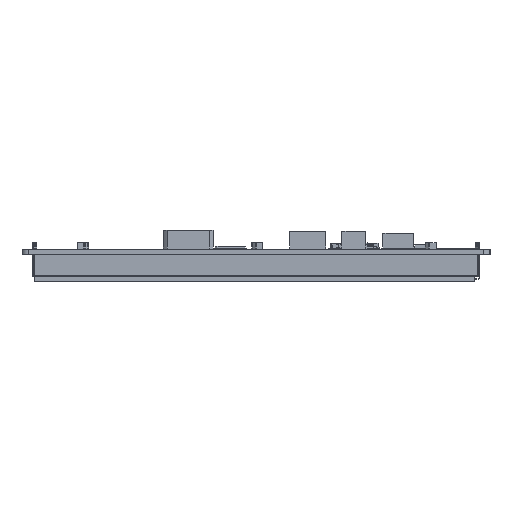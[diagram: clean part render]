
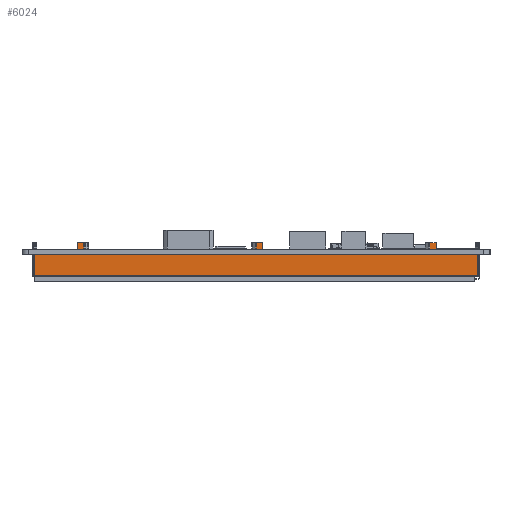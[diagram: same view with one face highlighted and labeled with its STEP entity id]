
A CAD part, left-side view. The second image highlights one B-rep face of the part: STEP entity #6024.
In plain terms, the highlighted planar face has unit normal (-1, 0, 0).
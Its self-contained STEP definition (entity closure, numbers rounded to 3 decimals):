
#6024=ADVANCED_FACE('',(#10376),#8043,.F.);
#8043=PLANE('',#53739);
#10376=FACE_OUTER_BOUND('',#12884,.T.);
#12884=EDGE_LOOP('',(#25578,#25579,#25580,#25581,#25582,#25583,#25584,#25585,
#25586,#25587,#25588,#25589,#25590,#25591,#25592,#25593,#25594,#25595,#25596,
#25597,#25598,#25599));
#25578=ORIENTED_EDGE('',*,*,#38000,.F.);
#25579=ORIENTED_EDGE('',*,*,#38001,.T.);
#25580=ORIENTED_EDGE('',*,*,#38002,.T.);
#25581=ORIENTED_EDGE('',*,*,#37997,.T.);
#25582=ORIENTED_EDGE('',*,*,#38003,.F.);
#25583=ORIENTED_EDGE('',*,*,#38004,.F.);
#25584=ORIENTED_EDGE('',*,*,#38005,.T.);
#25585=ORIENTED_EDGE('',*,*,#38006,.T.);
#25586=ORIENTED_EDGE('',*,*,#38007,.T.);
#25587=ORIENTED_EDGE('',*,*,#37993,.T.);
#25588=ORIENTED_EDGE('',*,*,#38008,.F.);
#25589=ORIENTED_EDGE('',*,*,#38009,.F.);
#25590=ORIENTED_EDGE('',*,*,#38010,.T.);
#25591=ORIENTED_EDGE('',*,*,#38011,.T.);
#25592=ORIENTED_EDGE('',*,*,#38012,.T.);
#25593=ORIENTED_EDGE('',*,*,#37989,.T.);
#25594=ORIENTED_EDGE('',*,*,#38013,.F.);
#25595=ORIENTED_EDGE('',*,*,#38014,.T.);
#25596=ORIENTED_EDGE('',*,*,#38015,.F.);
#25597=ORIENTED_EDGE('',*,*,#38016,.F.);
#25598=ORIENTED_EDGE('',*,*,#38017,.T.);
#25599=ORIENTED_EDGE('',*,*,#37987,.T.);
#31258=VERTEX_POINT('',#79700);
#31260=VERTEX_POINT('',#79704);
#31261=VERTEX_POINT('',#79708);
#31263=VERTEX_POINT('',#79711);
#31265=VERTEX_POINT('',#79717);
#31267=VERTEX_POINT('',#79720);
#31269=VERTEX_POINT('',#79726);
#31271=VERTEX_POINT('',#79729);
#31273=VERTEX_POINT('',#79735);
#31274=VERTEX_POINT('',#79737);
#31275=VERTEX_POINT('',#79740);
#31276=VERTEX_POINT('',#79742);
#31277=VERTEX_POINT('',#79744);
#31278=VERTEX_POINT('',#79746);
#31279=VERTEX_POINT('',#79749);
#31280=VERTEX_POINT('',#79751);
#31281=VERTEX_POINT('',#79753);
#31282=VERTEX_POINT('',#79755);
#31283=VERTEX_POINT('',#79758);
#31284=VERTEX_POINT('',#79760);
#31285=VERTEX_POINT('',#79762);
#31286=VERTEX_POINT('',#79764);
#37987=EDGE_CURVE('',#31258,#31260,#44156,.T.);
#37989=EDGE_CURVE('',#31263,#31261,#44158,.T.);
#37993=EDGE_CURVE('',#31267,#31265,#44162,.T.);
#37997=EDGE_CURVE('',#31271,#31269,#44166,.T.);
#38000=EDGE_CURVE('',#31273,#31260,#44169,.T.);
#38001=EDGE_CURVE('',#31273,#31274,#44170,.T.);
#38002=EDGE_CURVE('',#31274,#31271,#44171,.T.);
#38003=EDGE_CURVE('',#31275,#31269,#44172,.T.);
#38004=EDGE_CURVE('',#31276,#31275,#44173,.T.);
#38005=EDGE_CURVE('',#31276,#31277,#44174,.T.);
#38006=EDGE_CURVE('',#31277,#31278,#44175,.T.);
#38007=EDGE_CURVE('',#31278,#31267,#44176,.T.);
#38008=EDGE_CURVE('',#31279,#31265,#44177,.T.);
#38009=EDGE_CURVE('',#31280,#31279,#44178,.T.);
#38010=EDGE_CURVE('',#31280,#31281,#44179,.T.);
#38011=EDGE_CURVE('',#31281,#31282,#44180,.T.);
#38012=EDGE_CURVE('',#31282,#31263,#44181,.T.);
#38013=EDGE_CURVE('',#31283,#31261,#44182,.T.);
#38014=EDGE_CURVE('',#31283,#31284,#44183,.T.);
#38015=EDGE_CURVE('',#31285,#31284,#44184,.T.);
#38016=EDGE_CURVE('',#31286,#31285,#44185,.T.);
#38017=EDGE_CURVE('',#31286,#31258,#44186,.T.);
#44156=LINE('',#79705,#50177);
#44158=LINE('',#79710,#50179);
#44162=LINE('',#79719,#50183);
#44166=LINE('',#79728,#50187);
#44169=LINE('',#79734,#50190);
#44170=LINE('',#79736,#50191);
#44171=LINE('',#79738,#50192);
#44172=LINE('',#79739,#50193);
#44173=LINE('',#79741,#50194);
#44174=LINE('',#79743,#50195);
#44175=LINE('',#79745,#50196);
#44176=LINE('',#79747,#50197);
#44177=LINE('',#79748,#50198);
#44178=LINE('',#79750,#50199);
#44179=LINE('',#79752,#50200);
#44180=LINE('',#79754,#50201);
#44181=LINE('',#79756,#50202);
#44182=LINE('',#79757,#50203);
#44183=LINE('',#79759,#50204);
#44184=LINE('',#79761,#50205);
#44185=LINE('',#79763,#50206);
#44186=LINE('',#79765,#50207);
#50177=VECTOR('',#65326,1.);
#50179=VECTOR('',#65330,1.);
#50183=VECTOR('',#65336,1.);
#50187=VECTOR('',#65342,1.);
#50190=VECTOR('',#65347,1.);
#50191=VECTOR('',#65348,1.);
#50192=VECTOR('',#65349,1.);
#50193=VECTOR('',#65350,1.);
#50194=VECTOR('',#65351,1.);
#50195=VECTOR('',#65352,1.);
#50196=VECTOR('',#65353,1.);
#50197=VECTOR('',#65354,1.);
#50198=VECTOR('',#65355,1.);
#50199=VECTOR('',#65356,1.);
#50200=VECTOR('',#65357,1.);
#50201=VECTOR('',#65358,1.);
#50202=VECTOR('',#65359,1.);
#50203=VECTOR('',#65360,1.);
#50204=VECTOR('',#65361,1.);
#50205=VECTOR('',#65362,1.);
#50206=VECTOR('',#65363,1.);
#50207=VECTOR('',#65364,1.);
#53739=AXIS2_PLACEMENT_3D('',#79766,#65365,#65366);
#65326=DIRECTION('',(0.,1.,0.));
#65330=DIRECTION('',(0.,1.,0.));
#65336=DIRECTION('',(0.,1.,0.));
#65342=DIRECTION('',(0.,1.,0.));
#65347=DIRECTION('',(0.,0.,1.));
#65348=DIRECTION('',(0.,-1.,0.));
#65349=DIRECTION('',(0.,0.,1.));
#65350=DIRECTION('',(0.,0.,-1.));
#65351=DIRECTION('',(0.,-1.,0.));
#65352=DIRECTION('',(0.,0.,-1.));
#65353=DIRECTION('',(0.,-1.,0.));
#65354=DIRECTION('',(0.,0.,-1.));
#65355=DIRECTION('',(0.,0.,-1.));
#65356=DIRECTION('',(0.,-1.,0.));
#65357=DIRECTION('',(0.,0.,-1.));
#65358=DIRECTION('',(0.,-1.,0.));
#65359=DIRECTION('',(0.,0.,-1.));
#65360=DIRECTION('',(0.,0.,-1.));
#65361=DIRECTION('',(0.,-1.,0.));
#65362=DIRECTION('',(0.,0.,-1.));
#65363=DIRECTION('',(0.,-1.,0.));
#65364=DIRECTION('',(0.,0.,-1.));
#65365=DIRECTION('',(1.,0.,0.));
#65366=DIRECTION('',(0.,-1.,0.));
#79700=CARTESIAN_POINT('',(-84.85,60.795,-1.6));
#79704=CARTESIAN_POINT('',(-84.85,74.48,-1.6));
#79705=CARTESIAN_POINT('',(-84.85,-66.52,-1.6));
#79708=CARTESIAN_POINT('',(-84.85,58.795,-1.6));
#79710=CARTESIAN_POINT('',(-84.85,-66.52,-1.6));
#79711=CARTESIAN_POINT('',(-84.85,3.795,-1.6));
#79717=CARTESIAN_POINT('',(-84.85,1.795,-1.6));
#79719=CARTESIAN_POINT('',(-84.85,-66.52,-1.6));
#79720=CARTESIAN_POINT('',(-84.85,-51.325,-1.6));
#79726=CARTESIAN_POINT('',(-84.85,-53.325,-1.6));
#79728=CARTESIAN_POINT('',(-84.85,-66.52,-1.6));
#79729=CARTESIAN_POINT('',(-84.85,-66.52,-1.6));
#79734=CARTESIAN_POINT('',(-84.85,74.48,-8.8));
#79735=CARTESIAN_POINT('',(-84.85,74.48,-8.4));
#79736=CARTESIAN_POINT('',(-84.85,-66.52,-8.4));
#79737=CARTESIAN_POINT('',(-84.85,-66.52,-8.4));
#79738=CARTESIAN_POINT('',(-84.85,-66.52,-8.8));
#79739=CARTESIAN_POINT('',(-84.85,-53.325,2.));
#79740=CARTESIAN_POINT('',(-84.85,-53.325,2.));
#79741=CARTESIAN_POINT('',(-84.85,-51.243,2.));
#79742=CARTESIAN_POINT('',(-84.85,-51.243,2.));
#79743=CARTESIAN_POINT('',(-84.85,-51.243,2.));
#79744=CARTESIAN_POINT('',(-84.85,-51.243,0.));
#79745=CARTESIAN_POINT('',(-84.85,-51.243,0.));
#79746=CARTESIAN_POINT('',(-84.85,-51.325,0.));
#79747=CARTESIAN_POINT('',(-84.85,-51.325,0.));
#79748=CARTESIAN_POINT('',(-84.85,1.795,2.));
#79749=CARTESIAN_POINT('',(-84.85,1.795,2.));
#79750=CARTESIAN_POINT('',(-84.85,3.877,2.));
#79751=CARTESIAN_POINT('',(-84.85,3.877,2.));
#79752=CARTESIAN_POINT('',(-84.85,3.877,2.));
#79753=CARTESIAN_POINT('',(-84.85,3.877,0.));
#79754=CARTESIAN_POINT('',(-84.85,3.877,0.));
#79755=CARTESIAN_POINT('',(-84.85,3.795,0.));
#79756=CARTESIAN_POINT('',(-84.85,3.795,0.));
#79757=CARTESIAN_POINT('',(-84.85,58.795,0.));
#79758=CARTESIAN_POINT('',(-84.85,58.795,0.));
#79759=CARTESIAN_POINT('',(-84.85,60.795,0.));
#79760=CARTESIAN_POINT('',(-84.85,58.713,0.));
#79761=CARTESIAN_POINT('',(-84.85,58.713,2.));
#79762=CARTESIAN_POINT('',(-84.85,58.713,2.));
#79763=CARTESIAN_POINT('',(-84.85,60.795,2.));
#79764=CARTESIAN_POINT('',(-84.85,60.795,2.));
#79765=CARTESIAN_POINT('',(-84.85,60.795,2.));
#79766=CARTESIAN_POINT('',(-84.85,-66.52,-8.8));
